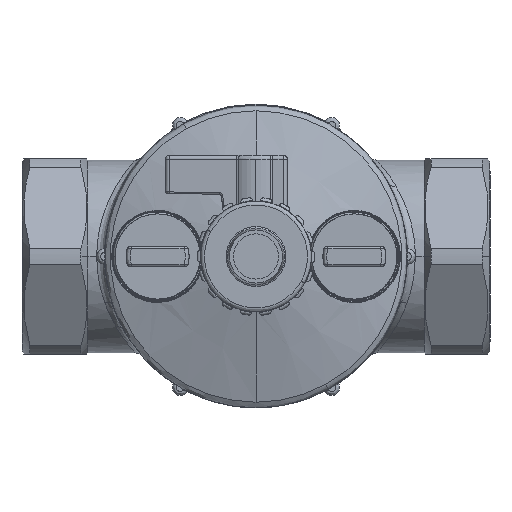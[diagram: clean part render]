
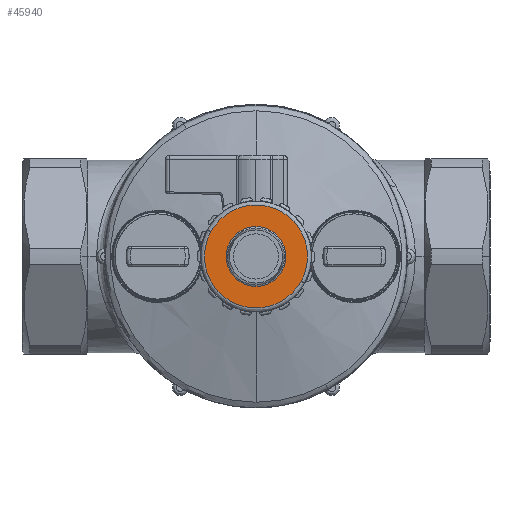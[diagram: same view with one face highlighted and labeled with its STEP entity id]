
A CAD part, front view. The second image highlights one B-rep face of the part: STEP entity #45940.
In plain terms, the highlighted planar face has unit normal (0, -1, 0).
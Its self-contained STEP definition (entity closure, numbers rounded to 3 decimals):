
#924 = AXIS2_PLACEMENT_3D ( 'NONE', #15538, #83071, #15957 ) ;
#1405 = CARTESIAN_POINT ( 'NONE',  ( -16.712, -16.476, 24.057 ) ) ;
#1853 = FACE_BOUND ( 'NONE', #47459, .T. ) ;
#3352 = CARTESIAN_POINT ( 'NONE',  ( 0., -16.476, -7.6 ) ) ;
#5280 = CIRCLE ( 'NONE', #58839, 7.6 ) ;
#7129 = CARTESIAN_POINT ( 'NONE',  ( 29.273, -16.476, -1.065 ) ) ;
#7451 = VERTEX_POINT ( 'NONE', #3352 ) ;
#7822 = DIRECTION ( 'NONE',  ( 0., -1., 0. ) ) ;
#8234 = DIRECTION ( 'NONE',  ( 0., 0., 1. ) ) ;
#15538 = CARTESIAN_POINT ( 'NONE',  ( 0., -16.476, 14.1 ) ) ;
#15957 = DIRECTION ( 'NONE',  ( 0., 0., 1. ) ) ;
#16031 = ORIENTED_EDGE ( 'NONE', *, *, #76179, .F. ) ;
#20611 = DIRECTION ( 'NONE',  ( 0., -1., 0. ) ) ;
#21245 = CARTESIAN_POINT ( 'NONE',  ( 6.28, -16.476, 11.496 ) ) ;
#28335 = CARTESIAN_POINT ( 'NONE',  ( 6.28, -16.476, 11.496 ) ) ;
#29125 = VERTEX_POINT ( 'NONE', #49370 ) ;
#34746 = DIRECTION ( 'NONE',  ( 0., 0., 1. ) ) ;
#34941 = CARTESIAN_POINT ( 'NONE',  ( -6.28, -16.476, -11.496 ) ) ;
#40031 = CARTESIAN_POINT ( 'NONE',  ( 0., -16.476, 0. ) ) ;
#42027 = FACE_OUTER_BOUND ( 'NONE', #60916, .T. ) ;
#42908 = CARTESIAN_POINT ( 'NONE',  ( 0., -16.476, 7.6 ) ) ;
#45940 = ADVANCED_FACE ( 'NONE', ( #1853, #42027 ), #74720, .F. ) ;
#46763 = VERTEX_POINT ( 'NONE', #42908 ) ;
#47459 = EDGE_LOOP ( 'NONE', ( #16031, #80774 ) ) ;
#49370 = CARTESIAN_POINT ( 'NONE',  ( 6.28, -16.476, 11.496 ) ) ;
#54568 = ORIENTED_EDGE ( 'NONE', *, *, #63593, .F. ) ;
#55352 =( BOUNDED_CURVE ( )  B_SPLINE_CURVE ( 3, ( #21245, #7129, #81717, #61849 ),
 .UNSPECIFIED., .F., .F. ) 
 B_SPLINE_CURVE_WITH_KNOTS ( ( 4, 4 ),
 ( 0., 1. ),
 .UNSPECIFIED. ) 
 CURVE ( )  GEOMETRIC_REPRESENTATION_ITEM ( )  RATIONAL_B_SPLINE_CURVE ( ( 1., 0.333, 0.333, 1. ) ) 
 REPRESENTATION_ITEM ( '' )  );
#58839 = AXIS2_PLACEMENT_3D ( 'NONE', #76236, #7822, #34746 ) ;
#60916 = EDGE_LOOP ( 'NONE', ( #54568, #76422 ) ) ;
#61849 = CARTESIAN_POINT ( 'NONE',  ( -6.28, -16.476, -11.496 ) ) ;
#61878 = CARTESIAN_POINT ( 'NONE',  ( -29.273, -16.476, 1.065 ) ) ;
#63438 = CIRCLE ( 'NONE', #84521, 7.6 ) ;
#63593 = EDGE_CURVE ( 'NONE', #68145, #29125, #68077, .T. ) ;
#68077 =( BOUNDED_CURVE ( )  B_SPLINE_CURVE ( 3, ( #34941, #61878, #1405, #28335 ),
 .UNSPECIFIED., .F., .F. ) 
 B_SPLINE_CURVE_WITH_KNOTS ( ( 4, 4 ),
 ( 0., 1. ),
 .UNSPECIFIED. ) 
 CURVE ( )  GEOMETRIC_REPRESENTATION_ITEM ( )  RATIONAL_B_SPLINE_CURVE ( ( 1., 0.333, 0.333, 1. ) ) 
 REPRESENTATION_ITEM ( '' )  );
#68145 = VERTEX_POINT ( 'NONE', #74936 ) ;
#71244 = EDGE_CURVE ( 'NONE', #7451, #46763, #5280, .T. ) ;
#74720 = PLANE ( 'NONE',  #924 ) ;
#74936 = CARTESIAN_POINT ( 'NONE',  ( -6.28, -16.476, -11.496 ) ) ;
#76179 = EDGE_CURVE ( 'NONE', #46763, #7451, #63438, .T. ) ;
#76236 = CARTESIAN_POINT ( 'NONE',  ( 0., -16.476, 0. ) ) ;
#76422 = ORIENTED_EDGE ( 'NONE', *, *, #84909, .F. ) ;
#80774 = ORIENTED_EDGE ( 'NONE', *, *, #71244, .F. ) ;
#81717 = CARTESIAN_POINT ( 'NONE',  ( 16.712, -16.476, -24.057 ) ) ;
#83071 = DIRECTION ( 'NONE',  ( 0., 1., 0. ) ) ;
#84521 = AXIS2_PLACEMENT_3D ( 'NONE', #40031, #20611, #8234 ) ;
#84909 = EDGE_CURVE ( 'NONE', #29125, #68145, #55352, .T. ) ;
